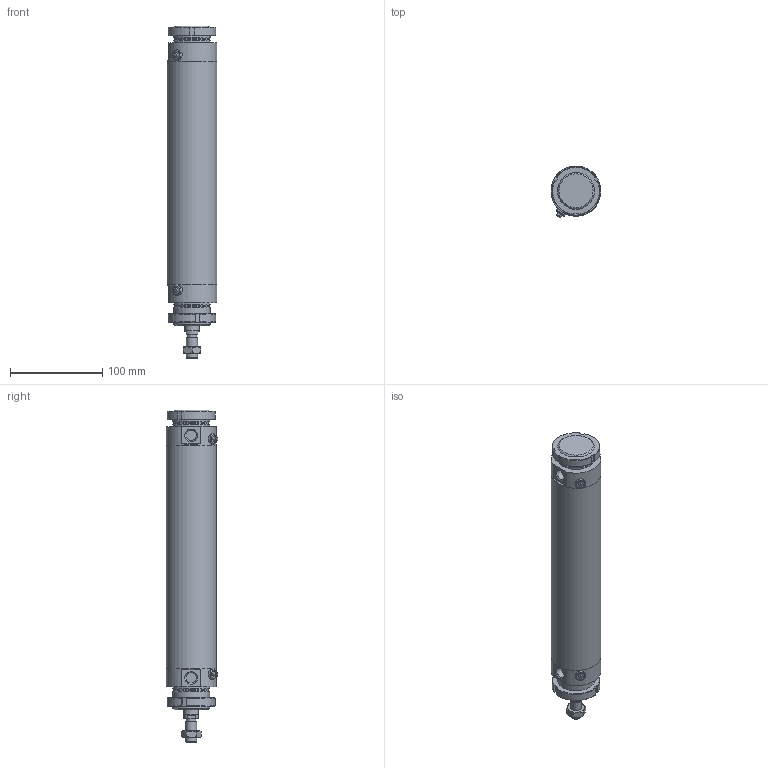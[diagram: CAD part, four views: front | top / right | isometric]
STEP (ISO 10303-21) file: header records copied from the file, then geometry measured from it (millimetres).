
FILE_DESCRIPTION(/* description */ (''),/* implementation_level */ '2;1');
FILE_NAME(/* name */ 'I:\Area Tecnica\Documenti\A-Manieri\_Inventor\12X\12X#C_###_####_#_#\12XBC_050_0200_#_#.stp',/* time_stamp */ '2015-04-28T15:43:55+02:00',/* author */ ('maniean1'),/* organization */ ('Pneumax S.p.A.'),/* preprocessor_version */ 'ST-DEVELOPER v15.2',/* originating_system */ 'Autodesk Inventor 2014',/* authorisation */ '');
FILE_SCHEMA (('AUTOMOTIVE_DESIGN { 1 0 10303 214 3 1 1 }'));
Length unit declared in the file: millimetre
Products named in the file (7): C1250_619-0200; 12X50_606; S12X50_0200; 12X_50_11; 12X50_621; G12X_050_05; 12XBC_050_0200_#_#
Bounding box: 54 x 55.88 x 360 mm (x, y, z)
Volume: 367690.2 mm3; surface area: 137421.9 mm2
Topology: 7 solids, 7 shells, 124 faces, 282 edges, 182 vertices
Faces by surface type: plane 64, cylinder 31, cone 27, torus 2
Full cylindrical faces by diameter (mm): 5 x2, 10.2 x1, 11 x2, 11.4 x2, 12 x2, 14 x1, 15.6 x1, 16 x1, 38.2 x2, 40 x6, 50 x2, 54 x3
Entity records: 2755 total; most frequent: CARTESIAN_POINT 553, DIRECTION 462, ORIENTED_EDGE 356, AXIS2_PLACEMENT_3D 197, EDGE_CURVE 178, EDGE_LOOP 160, VERTEX_POINT 136, ADVANCED_FACE 103
